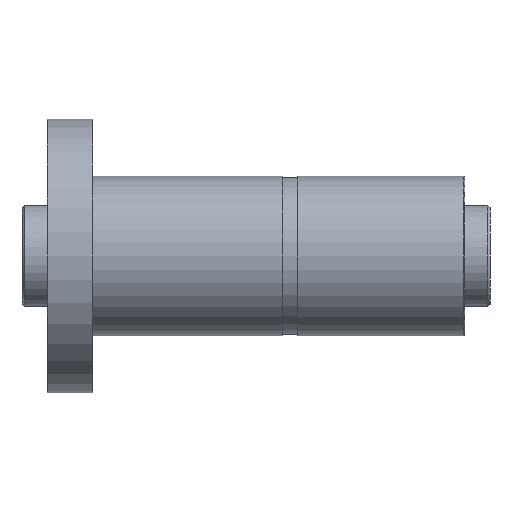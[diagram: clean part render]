
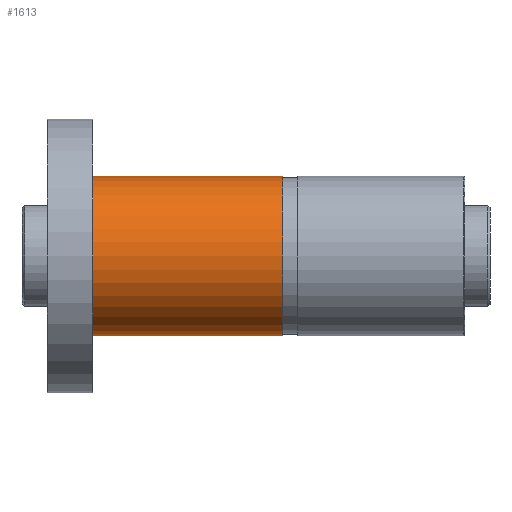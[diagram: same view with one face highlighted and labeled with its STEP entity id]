
A CAD part, front view. The second image highlights one B-rep face of the part: STEP entity #1613.
In plain terms, the highlighted cylindrical face has radius 31.5 mm (diameter 63 mm), a partial arc.
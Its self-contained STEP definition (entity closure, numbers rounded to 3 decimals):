
#107 = CIRCLE ( 'NONE', #2489, 31.5 ) ;
#255 = DIRECTION ( 'NONE',  ( -1., 0., 0. ) ) ;
#394 = EDGE_LOOP ( 'NONE', ( #2941, #3088, #1739, #3093 ) ) ;
#425 = VECTOR ( 'NONE', #3954, 1000. ) ;
#547 = DIRECTION ( 'NONE',  ( 0., 0., 1. ) ) ;
#855 = CARTESIAN_POINT ( 'NONE',  ( 18., 0., -31.5 ) ) ;
#1337 = FACE_OUTER_BOUND ( 'NONE', #394, .T. ) ;
#1361 = CARTESIAN_POINT ( 'NONE',  ( 93., 0., -31.5 ) ) ;
#1415 = CARTESIAN_POINT ( 'NONE',  ( 18., 0., 31.5 ) ) ;
#1434 = AXIS2_PLACEMENT_3D ( 'NONE', #1478, #3087, #3118 ) ;
#1478 = CARTESIAN_POINT ( 'NONE',  ( 93., 0., 0. ) ) ;
#1613 = ADVANCED_FACE ( 'NONE', ( #1337 ), #2882, .T. ) ;
#1698 = VERTEX_POINT ( 'NONE', #3267 ) ;
#1739 = ORIENTED_EDGE ( 'NONE', *, *, #3824, .T. ) ;
#1792 = VECTOR ( 'NONE', #2175, 1000. ) ;
#1804 = EDGE_CURVE ( 'NONE', #2298, #2474, #2784, .T. ) ;
#1834 = CARTESIAN_POINT ( 'NONE',  ( 0., 0., 31.5 ) ) ;
#2175 = DIRECTION ( 'NONE',  ( -1., 0., 0. ) ) ;
#2184 = DIRECTION ( 'NONE',  ( 0., 0., 1. ) ) ;
#2298 = VERTEX_POINT ( 'NONE', #1361 ) ;
#2336 = AXIS2_PLACEMENT_3D ( 'NONE', #3516, #255, #2184 ) ;
#2361 = VERTEX_POINT ( 'NONE', #1415 ) ;
#2474 = VERTEX_POINT ( 'NONE', #855 ) ;
#2489 = AXIS2_PLACEMENT_3D ( 'NONE', #3309, #2623, #547 ) ;
#2623 = DIRECTION ( 'NONE',  ( -1., 0., 0. ) ) ;
#2682 = LINE ( 'NONE', #1834, #1792 ) ;
#2784 = LINE ( 'NONE', #3355, #425 ) ;
#2851 = EDGE_CURVE ( 'NONE', #2298, #1698, #3458, .T. ) ;
#2882 = CYLINDRICAL_SURFACE ( 'NONE', #2336, 31.5 ) ;
#2941 = ORIENTED_EDGE ( 'NONE', *, *, #1804, .F. ) ;
#3087 = DIRECTION ( 'NONE',  ( -1., 0., 0. ) ) ;
#3088 = ORIENTED_EDGE ( 'NONE', *, *, #2851, .T. ) ;
#3093 = ORIENTED_EDGE ( 'NONE', *, *, #3472, .F. ) ;
#3118 = DIRECTION ( 'NONE',  ( 0., 0., 1. ) ) ;
#3267 = CARTESIAN_POINT ( 'NONE',  ( 93., 0., 31.5 ) ) ;
#3309 = CARTESIAN_POINT ( 'NONE',  ( 18., 0., 0. ) ) ;
#3355 = CARTESIAN_POINT ( 'NONE',  ( 0., 0., -31.5 ) ) ;
#3458 = CIRCLE ( 'NONE', #1434, 31.5 ) ;
#3472 = EDGE_CURVE ( 'NONE', #2474, #2361, #107, .T. ) ;
#3516 = CARTESIAN_POINT ( 'NONE',  ( 0., 0., 0. ) ) ;
#3824 = EDGE_CURVE ( 'NONE', #1698, #2361, #2682, .T. ) ;
#3954 = DIRECTION ( 'NONE',  ( -1., 0., 0. ) ) ;
